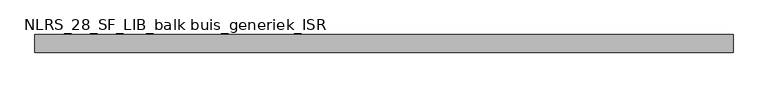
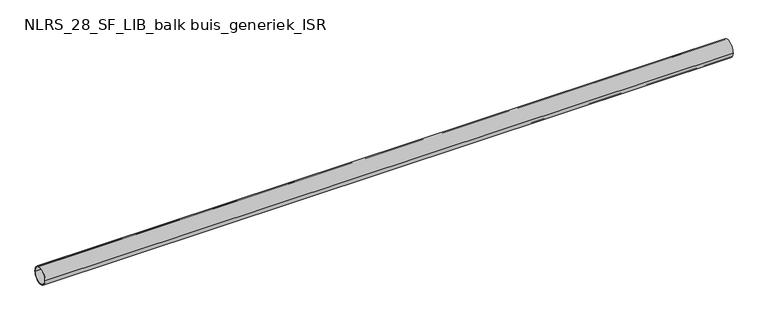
"""IFC4 building model written with IfcOpenShell, lengths in millimetres: beam geometry, NLRS_28_SF_LIB_balk buis_generiek_ISR : ø139.7x8."""

from ifc_helpers import new_model, si_unit, point, frame, origin, origin_2d, place, context, project, spatial, circle_curve, trimmed, segment, composite_curve, outline, extrude, source, transform, mapped, element, save


def nlrs_28_sf_lib_balk_buis_generiek_isr_22184801(model_context):
    return source(origin(), model_context, "Body", "SweptSolid", [
        extrude(outline(composite_curve([segment(trimmed(circle_curve(origin_2d(), 69.85), [point((-69.85, 0.0))], [point((69.85, 0.0))], False, "CARTESIAN"), True, "CONTINUOUS"), segment(trimmed(circle_curve(origin_2d(), 69.85), [point((69.85, 0.0))], [point((-69.85, 0.0))], False, "CARTESIAN"), True, "CONTINUOUS")], self_intersect=False), holes=[composite_curve([segment(trimmed(circle_curve(origin_2d(), 61.85), [point((61.85, 0.0))], [point((-61.85, 0.0))], True, "CARTESIAN"), True, "CONTINUOUS"), segment(trimmed(circle_curve(origin_2d(), 61.85), [point((-61.85, 0.0))], [point((61.85, 0.0))], True, "CARTESIAN"), True, "CONTINUOUS")], self_intersect=False)]), frame((-2760.0, 0.0, 0.0), z_axis=(1.0, 0.0, 0.0), x_axis=(0.0, 1.0, 0.0)), (0.0, 0.0, 1.0), 5520.0),
    ])


if __name__ == "__main__":
    model = new_model("IFC4")
    model_context = context("Model", 3, world=origin())
    ifc_project = project(units=[si_unit("LENGTHUNIT", "METRE", prefix="MILLI")], contexts=[model_context])
    site = spatial("IfcSite", under=ifc_project)
    building = spatial("IfcBuilding", under=site)
    placement = place(None, origin())
    nlrs_28_sf_lib_balk_buis_generiek_isr_shape = nlrs_28_sf_lib_balk_buis_generiek_isr_22184801(model_context)
    element("IfcBeam", 1, ObjectType="NLRS_28_SF_LIB_balk buis_generiek_ISR : ø139.7x8", at=placement, inside=building, context=model_context, shape_type="MappedRepresentation", body=[
        mapped(nlrs_28_sf_lib_balk_buis_generiek_isr_shape, transform((0.0, 0.0, 0.0), x_axis=(1.0, 0.0, 0.0), y_axis=(0.0, 1.0, 0.0), z_axis=(0.0, 0.0, 1.0))),
    ])
    save(model, "model.ifc")
